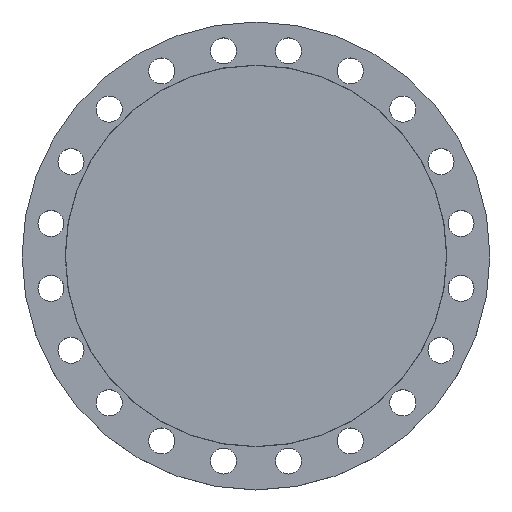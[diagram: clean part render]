
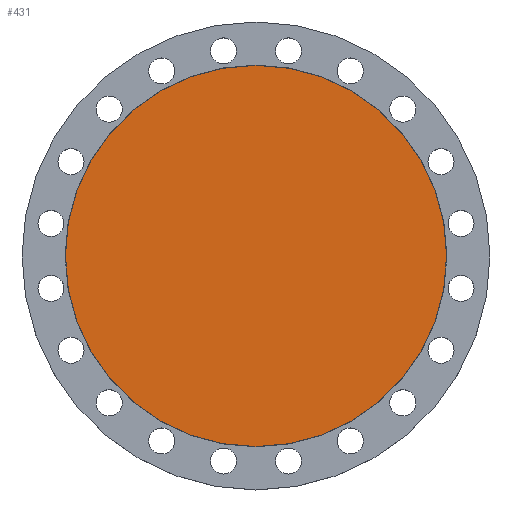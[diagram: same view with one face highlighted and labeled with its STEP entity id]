
A CAD part, top view. The second image highlights one B-rep face of the part: STEP entity #431.
In plain terms, the highlighted planar face has unit normal (0, 0, 1).
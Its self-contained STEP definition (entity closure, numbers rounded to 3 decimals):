
#146 = AXIS2_PLACEMENT_3D ( 'NONE', #1865, #587, #1192 ) ;
#200 = CIRCLE ( 'NONE', #146, 307.5 ) ;
#272 = CARTESIAN_POINT ( 'NONE',  ( 0., 0., 0. ) ) ;
#289 = VERTEX_POINT ( 'NONE', #903 ) ;
#431 = ADVANCED_FACE ( 'NONE', ( #1076 ), #1620, .T. ) ;
#587 = DIRECTION ( 'NONE',  ( 0., 0., -1. ) ) ;
#612 = CARTESIAN_POINT ( 'NONE',  ( 0., 0., 0. ) ) ;
#824 = EDGE_CURVE ( 'NONE', #289, #843, #998, .T. ) ;
#832 = AXIS2_PLACEMENT_3D ( 'NONE', #272, #938, #1507 ) ;
#843 = VERTEX_POINT ( 'NONE', #1379 ) ;
#887 = EDGE_LOOP ( 'NONE', ( #1279, #1281 ) ) ;
#903 = CARTESIAN_POINT ( 'NONE',  ( -307.5, 0., 0. ) ) ;
#938 = DIRECTION ( 'NONE',  ( 0., 0., 1. ) ) ;
#998 = CIRCLE ( 'NONE', #1000, 307.5 ) ;
#1000 = AXIS2_PLACEMENT_3D ( 'NONE', #612, #1224, #1758 ) ;
#1037 = EDGE_CURVE ( 'NONE', #843, #289, #200, .T. ) ;
#1076 = FACE_OUTER_BOUND ( 'NONE', #887, .T. ) ;
#1192 = DIRECTION ( 'NONE',  ( -1., 0., 0. ) ) ;
#1224 = DIRECTION ( 'NONE',  ( 0., 0., -1. ) ) ;
#1279 = ORIENTED_EDGE ( 'NONE', *, *, #824, .F. ) ;
#1281 = ORIENTED_EDGE ( 'NONE', *, *, #1037, .F. ) ;
#1379 = CARTESIAN_POINT ( 'NONE',  ( 307.5, 0., 0. ) ) ;
#1507 = DIRECTION ( 'NONE',  ( 1., 0., 0. ) ) ;
#1620 = PLANE ( 'NONE',  #832 ) ;
#1758 = DIRECTION ( 'NONE',  ( -1., 0., 0. ) ) ;
#1865 = CARTESIAN_POINT ( 'NONE',  ( 0., 0., 0. ) ) ;
